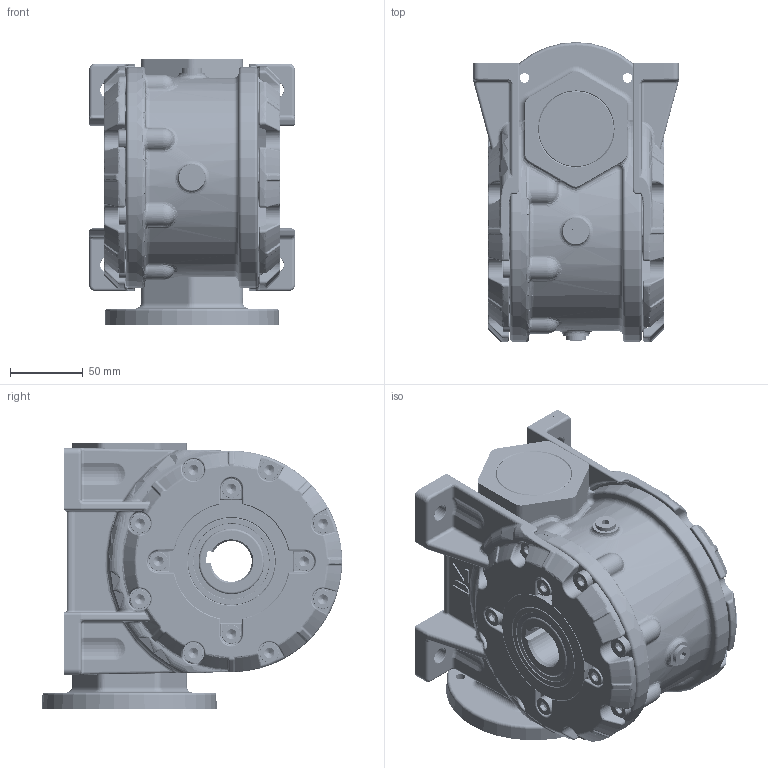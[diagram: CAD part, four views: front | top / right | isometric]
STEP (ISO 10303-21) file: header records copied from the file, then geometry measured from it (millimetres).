
FILE_DESCRIPTION (( 'STEP AP214' ), '1' );
FILE_NAME ('Sestava MRT70A-B.STEP', '2007-03-28T11:45:21', ( '' ), ( '' ), 'SwSTEP 2.0', 'SolidWorks 2004146', '' );
FILE_SCHEMA (( 'AUTOMOTIVE_DESIGN' ));
Length unit declared in the file: millimetre
Products named in the file (18): Šnekové kolo MRT70_Výchozí; n029401b_Tìsnìní AS 45x60x8 DIN 3760-NB; N024630_Ložisko ZKL 6009A ÈSN 024630; n029401b_Tìsnìní AS 30x47x7 DIN 3760-NB; Adaptér patky 70_Výchozí; D6912_Šroub DIN 6912 - M8x20; D6912_Šroub DIN 6912 - M6x16; D6912_Šroub DIN 6912 - M8x16; skøíò 70_Výchozí; Sestava MRT70A-B; NBRvíèko_52x7; D472A_Kroužek 52 ÈSN 022931; priruba70FT_Výchozí; N024720_Ložisko SKF 32006 X ÈSN 024720; Snek_70AP80_Výchozí; N024720_Ložisko SKF 30205 ÈSN 024720; ZatkaM10x1DIN908_M10x1; pøíruba 100-60_Výchozí
Assembly tree (40 placements, depth 2):
  Sestava MRT70A-B
    D6912_Šroub DIN 6912 - M8x20  x8
    ZatkaM10x1DIN908_M10x1  x2
    D6912_Šroub DIN 6912 - M6x16  x6
    N024630_Ložisko ZKL 6009A ÈSN 024630  x2
    D6912_Šroub DIN 6912 - M8x16  x8
    Šnekové kolo MRT70_Výchozí
    Adaptér patky 70_Výchozí  x2
    skøíò 70_Výchozí
    pøíruba 100-60_Výchozí
    N024720_Ložisko SKF 30205 ÈSN 024720
    N024720_Ložisko SKF 32006 X ÈSN 024720
    D472A_Kroužek 52 ÈSN 022931
    NBRvíèko_52x7
    n029401b_Tìsnìní AS 30x47x7 DIN 3760-NB
    priruba70FT_Výchozí
    Snek_70AP80_Výchozí
    n029401b_Tìsnìní AS 45x60x8 DIN 3760-NB  x2
Bounding box: 141 x 206 x 182 mm (x, y, z)
Volume: 1778461.9 mm3; surface area: 560248.4 mm2
Topology: 40 solids, 40 shells, 5152 faces, 12554 edges, 7129 vertices
Faces by surface type: cylinder 1181, torus 1114, bspline 1089, plane 897, cone 681, sphere 190
Entity records: 435535 total; most frequent: CARTESIAN_POINT 357364, ORIENTED_EDGE 16824, DIRECTION 15702, EDGE_CURVE 8412, AXIS2_PLACEMENT_3D 6977, VERTEX_POINT 4981, CIRCLE 4272, EDGE_LOOP 3647
